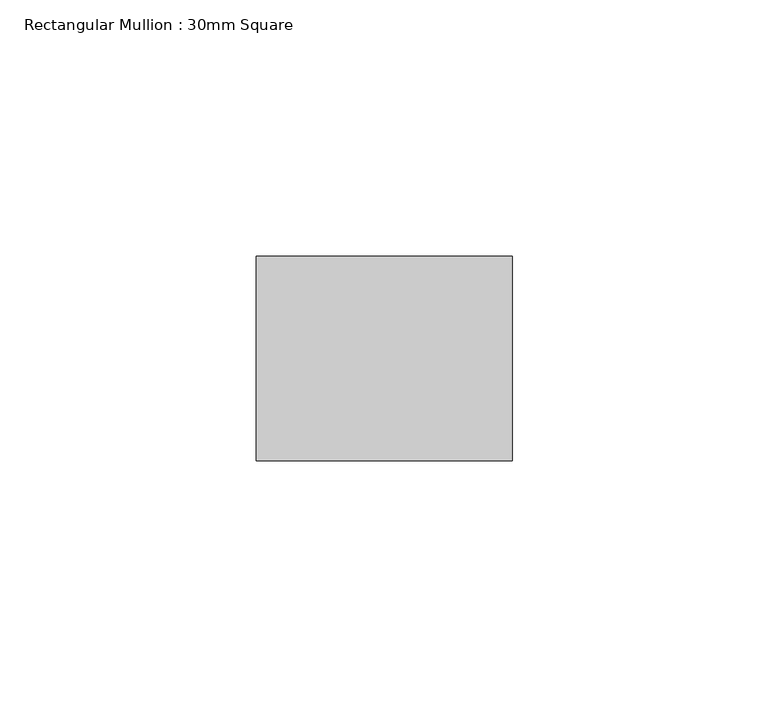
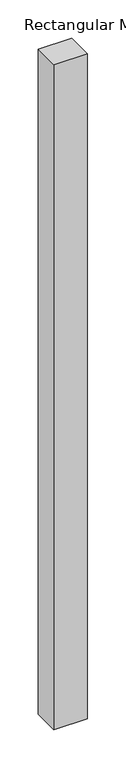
"""IFC4 building model written with IfcOpenShell, lengths in millimetres: member geometry, Rectangular Mullion : 30mm Square."""

from ifc_helpers import new_model, si_unit, frame, origin, place, context, project, spatial, polyline, outline, extrude, source, transform, mapped, element, save


def rectangular_mullion_30mm_square_58012b9b(model_context):
    return source(origin(), model_context, "Body", "SweptSolid", [
        extrude(outline(polyline([(25.0, 20.0), (25.0, -20.0), (-25.0, -20.0), (-25.0, 20.0), (25.0, 20.0)])), frame((0.0, 0.0, -1055.0), z_axis=(0.0, 0.0, 1.0), x_axis=(1.0, 0.0, 0.0)), (0.0, 0.0, 1.0), 1055.0),
    ])


if __name__ == "__main__":
    model = new_model("IFC4")
    model_context = context("Model", 3, world=origin())
    ifc_project = project(units=[si_unit("LENGTHUNIT", "METRE", prefix="MILLI")], contexts=[model_context])
    site = spatial("IfcSite", under=ifc_project)
    building = spatial("IfcBuilding", under=site)
    placement = place(None, origin())
    rectangular_mullion_30mm_square_shape = rectangular_mullion_30mm_square_58012b9b(model_context)
    element("IfcMember", 1, ObjectType="Rectangular Mullion : 30mm Square", at=placement, inside=building, context=model_context, shape_type="MappedRepresentation", body=[
        mapped(rectangular_mullion_30mm_square_shape, transform((0.0, 0.0, 0.0), x_axis=(1.0, 0.0, 0.0), y_axis=(0.0, 1.0, 0.0), z_axis=(0.0, 0.0, 1.0))),
    ])
    save(model, "model.ifc")
